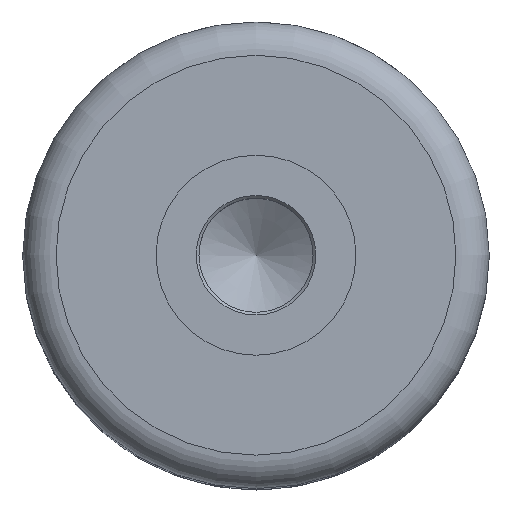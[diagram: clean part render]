
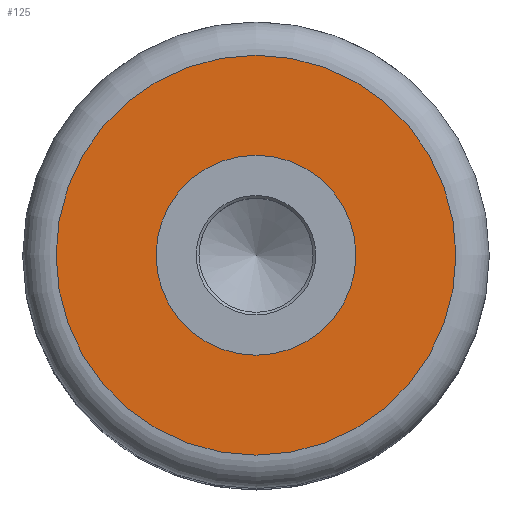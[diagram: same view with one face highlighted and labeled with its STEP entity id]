
A CAD part, top view. The second image highlights one B-rep face of the part: STEP entity #125.
In plain terms, the highlighted planar face has unit normal (0, 0, 1).
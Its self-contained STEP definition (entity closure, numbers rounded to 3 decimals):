
#125=ADVANCED_FACE('',(#219,#220),#221,.T.);
#219=FACE_BOUND('',#304,.T.);
#220=FACE_OUTER_BOUND('',#305,.T.);
#221=PLANE('',#306);
#304=EDGE_LOOP('',(#409));
#305=EDGE_LOOP('',(#410));
#306=AXIS2_PLACEMENT_3D('',#411,#412,#413);
#409=ORIENTED_EDGE('',*,*,#472,.F.);
#410=ORIENTED_EDGE('',*,*,#469,.T.);
#411=CARTESIAN_POINT('',(0.0,0.0,33.0));
#412=DIRECTION('',(0.0,0.0,1.0));
#413=DIRECTION('',(1.0,0.0,0.0));
#469=EDGE_CURVE('',#521,#521,#522,.T.);
#472=EDGE_CURVE('',#526,#526,#527,.T.);
#521=VERTEX_POINT('',#777);
#522=CIRCLE('',#778,15.0);
#526=VERTEX_POINT('',#782);
#527=CIRCLE('',#783,7.5);
#777=CARTESIAN_POINT('',(15.0,0.0,33.0));
#778=AXIS2_PLACEMENT_3D('',#832,#833,#834);
#782=CARTESIAN_POINT('',(7.5,0.0,33.0));
#783=AXIS2_PLACEMENT_3D('',#838,#839,#840);
#832=CARTESIAN_POINT('',(0.0,0.0,33.0));
#833=DIRECTION('',(0.0,0.0,1.0));
#834=DIRECTION('',(1.0,0.0,0.0));
#838=CARTESIAN_POINT('',(0.0,0.0,33.0));
#839=DIRECTION('',(0.0,0.0,1.0));
#840=DIRECTION('',(1.0,0.0,0.0));
